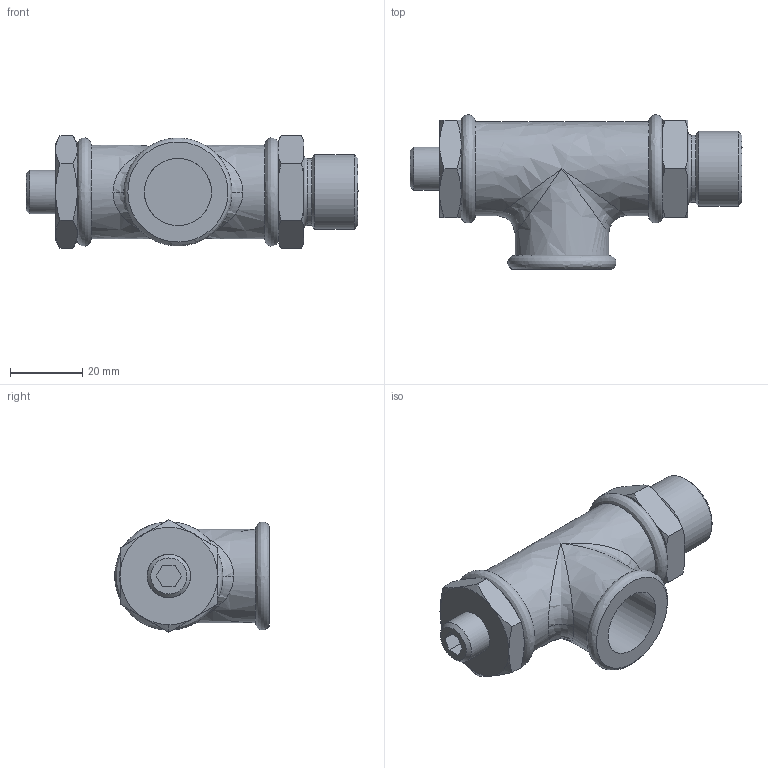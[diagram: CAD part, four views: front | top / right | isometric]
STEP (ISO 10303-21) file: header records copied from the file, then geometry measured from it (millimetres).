
FILE_DESCRIPTION((''),'2;1');
FILE_NAME('U:\Users\r.stiegele\12566000_EC330110.stp', '2013-10-11T15:12:35',('User'),('SDRC'),'I-DEAS Master Series 9','UNIX', 'Yes');
FILE_SCHEMA(('AUTOMOTIVE_DESIGN { 1 0 10303 214 1 1 1 1 }'));
Length unit declared in the file: millimetre
Products named in the file (1): 12566000(327293)
Bounding box: 92 x 42.78 x 31.18 mm (x, y, z)
Volume: 48188.2 mm3; surface area: 12033.7 mm2
Topology: 1 solids, 1 shells, 87 faces, 200 edges, 117 vertices
Faces by surface type: bspline 87
Entity records: 2995 total; most frequent: CARTESIAN_POINT 1855, ORIENTED_EDGE 392, EDGE_CURVE 196, VERTEX_POINT 117, EDGE_LOOP 93, FACE_OUTER_BOUND 87, ADVANCED_FACE 87, B_SPLINE_CURVE_WITH_KNOTS 65
